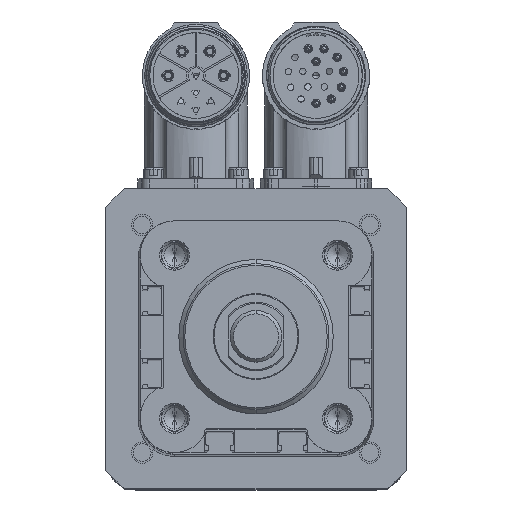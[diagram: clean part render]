
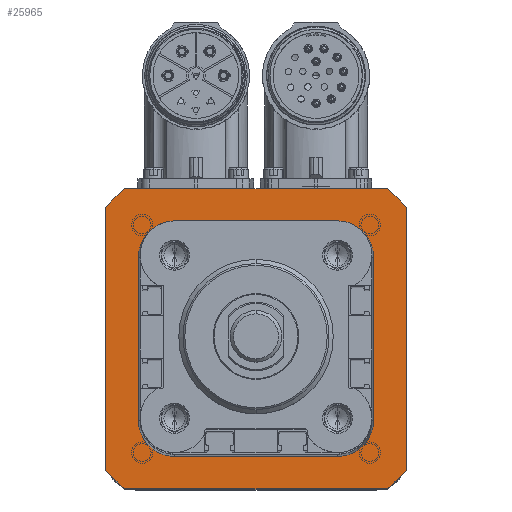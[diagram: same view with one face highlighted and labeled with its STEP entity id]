
A CAD part, top view. The second image highlights one B-rep face of the part: STEP entity #25965.
In plain terms, the highlighted planar face has unit normal (0, 0, 1) as drawn and (0, 0, -1) by its records, which use the part's own axes.
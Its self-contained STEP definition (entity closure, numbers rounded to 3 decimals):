
#24366=CARTESIAN_POINT('',(0.,0.,-1.));
#24367=DIRECTION('',(0.,0.,1.));
#24368=DIRECTION('',(0.,1.,0.));
#24369=AXIS2_PLACEMENT_3D('',#24366,#24367,#24368);
#24371=CARTESIAN_POINT('',(0.,0.,-1.));
#24372=DIRECTION('',(0.,0.,-1.));
#24373=DIRECTION('',(0.,1.,0.));
#24374=AXIS2_PLACEMENT_3D('',#24371,#24372,#24373);
#24376=CARTESIAN_POINT('',(0.,0.,-1.));
#24377=DIRECTION('',(0.,0.,1.));
#24378=DIRECTION('',(-0.658,0.753,0.));
#24379=AXIS2_PLACEMENT_3D('',#24376,#24377,#24378);
#24381=DIRECTION('',(0.,1.,0.));
#24382=VECTOR('',#24381,61.229);
#24383=CARTESIAN_POINT('',(-35.,-30.615,-1.));
#24384=LINE('',#24383,#24382);
#24385=CARTESIAN_POINT('',(0.,0.,-1.));
#24386=DIRECTION('',(0.,0.,1.));
#24387=DIRECTION('',(-0.753,-0.658,0.));
#24388=AXIS2_PLACEMENT_3D('',#24385,#24386,#24387);
#24390=DIRECTION('',(-1.,0.,0.));
#24391=VECTOR('',#24390,61.229);
#24392=CARTESIAN_POINT('',(30.615,-35.,-1.));
#24393=LINE('',#24392,#24391);
#24394=CARTESIAN_POINT('',(0.,0.,-1.));
#24395=DIRECTION('',(0.,0.,1.));
#24396=DIRECTION('',(0.658,-0.753,0.));
#24397=AXIS2_PLACEMENT_3D('',#24394,#24395,#24396);
#24399=DIRECTION('',(0.,-1.,0.));
#24400=VECTOR('',#24399,61.229);
#24401=CARTESIAN_POINT('',(35.,30.615,-1.));
#24402=LINE('',#24401,#24400);
#24403=CARTESIAN_POINT('',(0.,0.,-1.));
#24404=DIRECTION('',(0.,0.,1.));
#24405=DIRECTION('',(0.753,0.658,0.));
#24406=AXIS2_PLACEMENT_3D('',#24403,#24404,#24405);
#24408=DIRECTION('',(1.,0.,0.));
#24409=VECTOR('',#24408,61.229);
#24410=CARTESIAN_POINT('',(-30.615,35.,-1.));
#24411=LINE('',#24410,#24409);
#25502=CARTESIAN_POINT('',(0.,22.5,-1.));
#25503=VERTEX_POINT('',#25502);
#25518=CARTESIAN_POINT('',(0.,-22.5,-1.));
#25519=VERTEX_POINT('',#25518);
#25520=CARTESIAN_POINT('',(-30.615,35.,-1.));
#25521=CARTESIAN_POINT('',(-35.,30.615,-1.));
#25522=VERTEX_POINT('',#25520);
#25523=VERTEX_POINT('',#25521);
#25524=CARTESIAN_POINT('',(30.615,35.,-1.));
#25525=VERTEX_POINT('',#25524);
#25526=CARTESIAN_POINT('',(35.,30.615,-1.));
#25527=VERTEX_POINT('',#25526);
#25528=CARTESIAN_POINT('',(35.,-30.615,-1.));
#25529=VERTEX_POINT('',#25528);
#25530=CARTESIAN_POINT('',(30.615,-35.,-1.));
#25531=VERTEX_POINT('',#25530);
#25532=CARTESIAN_POINT('',(-30.615,-35.,-1.));
#25533=VERTEX_POINT('',#25532);
#25534=CARTESIAN_POINT('',(-35.,-30.615,-1.));
#25535=VERTEX_POINT('',#25534);
#25937=CARTESIAN_POINT('',(0.,0.,-1.));
#25938=DIRECTION('',(0.,0.,1.));
#25939=DIRECTION('',(0.,1.,0.));
#25940=AXIS2_PLACEMENT_3D('',#25937,#25938,#25939);
#25941=PLANE('',#25940);
#25942=ORIENTED_EDGE('',*,*,#25927,.T.);
#25944=ORIENTED_EDGE('',*,*,#25943,.F.);
#25946=ORIENTED_EDGE('',*,*,#25945,.T.);
#25948=ORIENTED_EDGE('',*,*,#25947,.F.);
#25950=ORIENTED_EDGE('',*,*,#25949,.T.);
#25952=ORIENTED_EDGE('',*,*,#25951,.F.);
#25954=ORIENTED_EDGE('',*,*,#25953,.T.);
#25956=ORIENTED_EDGE('',*,*,#25955,.F.);
#25957=EDGE_LOOP('',(#25942,#25944,#25946,#25948,#25950,#25952,#25954,#25956));
#25958=FACE_OUTER_BOUND('',#25957,.F.);
#25960=ORIENTED_EDGE('',*,*,#25959,.F.);
#25962=ORIENTED_EDGE('',*,*,#25961,.T.);
#25963=EDGE_LOOP('',(#25960,#25962));
#25964=FACE_BOUND('',#25963,.F.);
#25965=ADVANCED_FACE('',(#25958,#25964),#25941,.F.);
#24370=CIRCLE('',#24369,22.5);
#24375=CIRCLE('',#24374,22.5);
#24380=CIRCLE('',#24379,46.5);
#24389=CIRCLE('',#24388,46.5);
#24398=CIRCLE('',#24397,46.5);
#24407=CIRCLE('',#24406,46.5);
#25927=EDGE_CURVE('',#25522,#25523,#24380,.T.);
#25943=EDGE_CURVE('',#25535,#25523,#24384,.T.);
#25945=EDGE_CURVE('',#25535,#25533,#24389,.T.);
#25947=EDGE_CURVE('',#25531,#25533,#24393,.T.);
#25949=EDGE_CURVE('',#25531,#25529,#24398,.T.);
#25951=EDGE_CURVE('',#25527,#25529,#24402,.T.);
#25953=EDGE_CURVE('',#25527,#25525,#24407,.T.);
#25955=EDGE_CURVE('',#25522,#25525,#24411,.T.);
#25959=EDGE_CURVE('',#25503,#25519,#24370,.T.);
#25961=EDGE_CURVE('',#25503,#25519,#24375,.T.);
